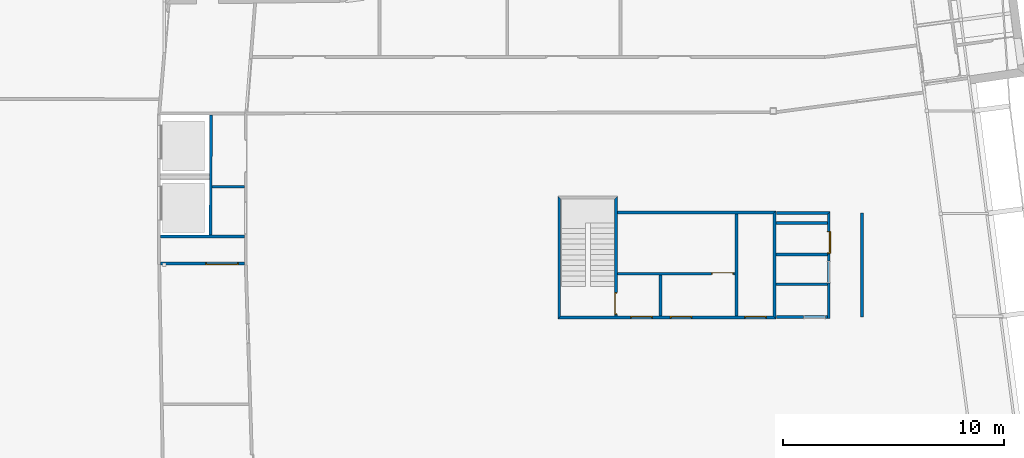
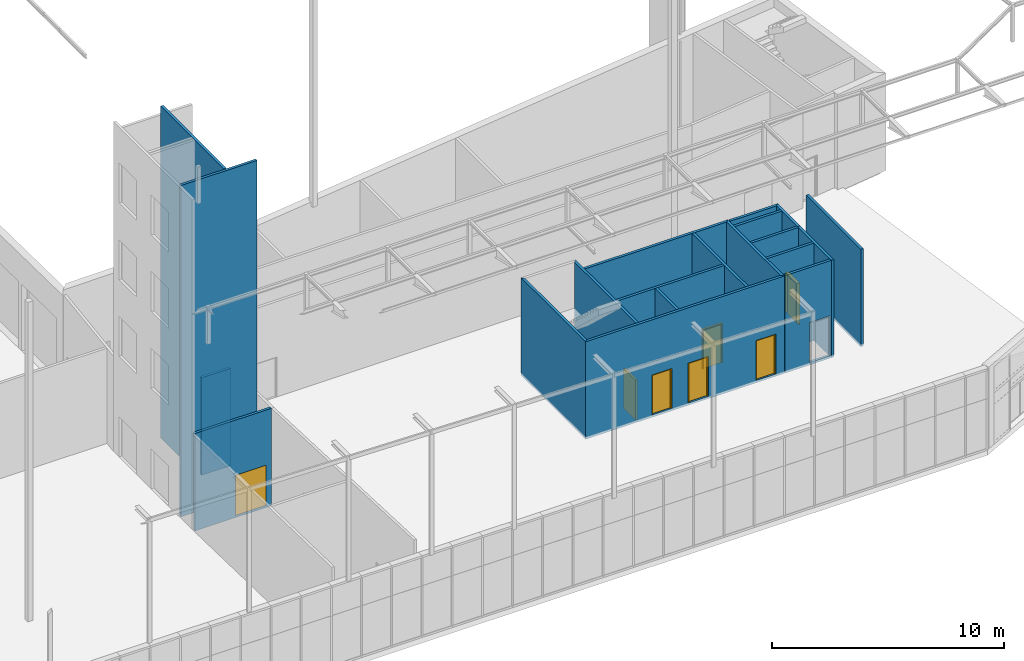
# One storey, part 26 of 40: 20 walls, 7 doors, 9 openings.
"""IFC2X3 building model written with IfcOpenShell, lengths in metres."""

from ifc_helpers import new_model, entity, si_unit, converted_unit, money_unit, direction, frame, origin_with_axes, origin_2d_with_axis, place, context, subcontext, project, spatial, polyline, rectangle, outline, extrude, faceted_brep, source, transform, mapped, material, material_list, layer, layer_set, layer_usage, type_object, element, fill, save


model = new_model("IFC2X3")

# Units and contexts
model_context = context("Model", 3, precision=1e-05, world=origin_with_axes(), true_north=direction((0.0, 1.0)))
body_context = subcontext(model_context, "Body", "Model", "MODEL_VIEW")
ifc_project = project(units=[si_unit("LENGTHUNIT", "METRE"), si_unit("AREAUNIT", "SQUARE_METRE"), si_unit("VOLUMEUNIT", "CUBIC_METRE"), converted_unit("PLANEANGLEUNIT", "DEGREE", entity("IfcPlaneAngleMeasure", 0.0174532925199), si_unit("PLANEANGLEUNIT", "RADIAN"), dimensions=[0, 0, 0, 0, 0, 0, 0]), si_unit("SOLIDANGLEUNIT", "STERADIAN"), money_unit("EUR"), converted_unit("TIMEUNIT", "Year", entity("IfcTimeMeasure", 31556926.0), si_unit("TIMEUNIT", "SECOND"), dimensions=[0, 0, 0, 0, 0, 0, 0]), si_unit("MASSUNIT", "GRAM"), si_unit("THERMODYNAMICTEMPERATUREUNIT", "DEGREE_CELSIUS"), si_unit("LUMINOUSINTENSITYUNIT", "LUMEN")], contexts=[model_context])

# Site, building, storey
site_placement = place(None, origin_with_axes())
site = spatial("IfcSite", under=ifc_project, at=site_placement, Name="Undefined", CompositionType="ELEMENT")
building_placement = place(site_placement, origin_with_axes())
building = spatial("IfcBuilding", under=site, at=building_placement, Name="Undefined", CompositionType="ELEMENT")
storey_placement = place(building_placement, origin_with_axes())
storey = spatial("IfcBuildingStorey", under=building, at=storey_placement, Name="Rez de chauss\x8ee", CompositionType="ELEMENT", Elevation=0.0)

# Wall, opening
ifc_material_1 = material(Name="Finition int - Enduit pl\x89tre")
ifc_layer_1 = layer(ifc_material_1, 0.015, ventilated="UNKNOWN")
ifc_material_2 = material(Name="Struct. - Parpaing b\x8eton")
ifc_layer_2 = layer(ifc_material_2, 0.1, ventilated="UNKNOWN")
ifc_layer_3 = layer(ifc_material_1, 0.015, ventilated="UNKNOWN")
ifc_layer_set = layer_set([ifc_layer_1, ifc_layer_2, ifc_layer_3], Name="0.0-Cloison: parpaing + pl\x89tre 2 faces copie")
ifc_layer_usage_1 = layer_usage(ifc_layer_set, "AXIS2", "POSITIVE", -0.05)
wall_type = type_object("IfcWallType", Name="0.0-Cloison: parpaing + pl\x89tre 2 faces copie 130", PredefinedType="NOTDEFINED")
wall_1_placement = place(storey_placement, frame((59.375, 9.195, 0.0), z_axis=(0.0, 0.0, 1.0), x_axis=(0.0, 1.0, 0.0)))
wall_1 = element("IfcWallStandardCase", 1, at=wall_1_placement, inside=storey, type_object=wall_type, material=ifc_layer_usage_1, Name="VOILE_10CM", ObjectType="5850*100", context=body_context, shape_type="SweptSolid", body=[
    extrude(outline(polyline([(0.0, -0.05), (2.91999999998, -0.05), (2.91999999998, 0.08), (0.0, 0.08), (0.0, -0.05)])), origin_with_axes(), (0.0, 0.0, 1.0), 5.11885554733),
])
opening_1_placement = place(wall_1_placement, frame((2.10446837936, 0.0, 0.06), z_axis=(0.0, 0.0, 1.0), x_axis=(1.0, 0.0, 0.0)))
element("IfcOpeningElement", 2, at=opening_1_placement, cuts=wall_1, Name="DOOR_1000", context=body_context, shape_type="SweptSolid", body=[
    extrude(rectangle(XDim=1.0, YDim=2.1, at=origin_2d_with_axis()), frame((0.0, 0.13, 1.05), z_axis=(0.0, -1.0, 0.0), x_axis=(-1.0, 0.0, 0.0)), (0.0, 0.0, 1.0), 0.39),
    extrude(rectangle(XDim=1.02, YDim=2.11, at=origin_2d_with_axis()), frame((0.0, 0.21, 1.055), z_axis=(0.0, -1.0, 0.0), x_axis=(-1.0, 0.0, 0.0)), (0.0, 0.0, 1.0), 0.13),
    extrude(rectangle(XDim=1.02, YDim=2.11, at=origin_2d_with_axis()), frame((0.0, -0.18, 1.055), z_axis=(0.0, 1.0, 0.0), x_axis=(-1.0, 0.0, 0.0)), (0.0, 0.0, 1.0), 0.13),
])

# Walls
ifc_layer_usage_2 = layer_usage(ifc_layer_set, "AXIS2", "NEGATIVE", 0.0)
wall_2_placement = place(storey_placement, frame((28.9587660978, 12.9800686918, 0.0), z_axis=(0.0, 0.0, 1.0), x_axis=(1.0, 0.0, 0.0)))
element("IfcWallStandardCase", 3, at=wall_2_placement, inside=storey, type_object=wall_type, material=ifc_layer_usage_2, Name="VOILE_15CM", ObjectType="6700*150", context=body_context, shape_type="SweptSolid", body=[
    extrude(outline(polyline([(0.13, -0.13), (3.92496966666, -0.13), (3.92496966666, 0.0), (0.13, 0.0), (0.13, -0.13)])), origin_with_axes(), (0.0, 0.0, 1.0), 17.4),
])
ifc_layer_usage_3 = layer_usage(ifc_layer_set, "AXIS2", "POSITIVE", -0.05)
wall_3_placement = place(storey_placement, frame((59.375, 10.7644683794, 0.0), z_axis=(0.0, 0.0, 1.0), x_axis=(-1.0, 0.0, 0.0)))
element("IfcWallStandardCase", 4, at=wall_3_placement, inside=storey, type_object=wall_type, material=ifc_layer_usage_3, Name="VOILE_10CM", ObjectType="5850*100", context=body_context, shape_type="SweptSolid", body=[
    extrude(outline(polyline([(0.08, -0.05), (2.41, -0.05), (2.41, 0.08), (0.08, 0.08), (0.08, -0.05)])), origin_with_axes(), (0.0, 0.0, 1.0), 5.11885554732),
])

# Wall, openings, doors
ifc_layer_usage_4 = layer_usage(ifc_layer_set, "AXIS2", "POSITIVE", 0.0)
wall_4_placement = place(storey_placement, frame((56.835, 9.31500002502, 0.0), z_axis=(0.0, 0.0, 1.0), x_axis=(-1.0, 0.0, 0.0)))
wall_4 = element("IfcWallStandardCase", 5, at=wall_4_placement, inside=storey, type_object=wall_type, material=ifc_layer_usage_4, Name="VOILE_15CM", ObjectType="5850*150", context=body_context, shape_type="SweptSolid", body=[
    extrude(outline(polyline([(0.0, 0.0), (9.62, 0.0), (9.75, 0.13), (-0.13, 0.13), (0.0, 0.0)])), origin_with_axes(), (0.0, 0.0, 1.0), 5.12),
])
opening_2_placement = place(wall_4_placement, frame((5.9541795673, 0.0, 0.12), z_axis=(0.0, 0.0, 1.0), x_axis=(1.0, 0.0, 0.0)))
opening_2 = element("IfcOpeningElement", 6, at=opening_2_placement, cuts=wall_4, Name="DOOR_1000", context=body_context, shape_type="SweptSolid", body=[
    extrude(rectangle(XDim=1.0, YDim=2.1, at=origin_2d_with_axis()), frame((0.0, -0.13, 1.05), z_axis=(0.0, 1.0, 0.0), x_axis=(1.0, 0.0, 0.0)), (0.0, 0.0, 1.0), 0.13),
    extrude(rectangle(XDim=1.0, YDim=2.1, at=origin_2d_with_axis()), frame((0.0, 0.13, 1.05), z_axis=(0.0, -1.0, 0.0), x_axis=(1.0, 0.0, 0.0)), (0.0, 0.0, 1.0), 0.13),
])
opening_3_placement = place(wall_4_placement, frame((0.798379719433, 0.0, 0.12), z_axis=(0.0, 0.0, 1.0), x_axis=(1.0, 0.0, 0.0)))
opening_3 = element("IfcOpeningElement", 7, at=opening_3_placement, cuts=wall_4, Name="DOOR_1000", context=body_context, shape_type="SweptSolid", body=[
    extrude(rectangle(XDim=1.0, YDim=2.1, at=origin_2d_with_axis()), frame((0.0, -0.13, 1.05), z_axis=(0.0, 1.0, 0.0), x_axis=(1.0, 0.0, 0.0)), (0.0, 0.0, 1.0), 0.13),
    extrude(rectangle(XDim=1.0, YDim=2.1, at=origin_2d_with_axis()), frame((0.0, 0.13, 1.05), z_axis=(0.0, -1.0, 0.0), x_axis=(1.0, 0.0, 0.0)), (0.0, 0.0, 1.0), 0.13),
])
opening_4_placement = place(wall_4_placement, frame((4.15761318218, 0.0, 0.12), z_axis=(0.0, 0.0, 1.0), x_axis=(1.0, 0.0, 0.0)))
opening_4 = element("IfcOpeningElement", 8, at=opening_4_placement, cuts=wall_4, Name="DOOR_1000", context=body_context, shape_type="SweptSolid", body=[
    extrude(rectangle(XDim=1.0, YDim=2.1, at=origin_2d_with_axis()), frame((0.0, -0.13, 1.05), z_axis=(0.0, 1.0, 0.0), x_axis=(1.0, 0.0, 0.0)), (0.0, 0.0, 1.0), 0.13),
    extrude(rectangle(XDim=1.0, YDim=2.1, at=origin_2d_with_axis()), frame((0.0, 0.13, 1.05), z_axis=(0.0, -1.0, 0.0), x_axis=(1.0, 0.0, 0.0)), (0.0, 0.0, 1.0), 0.13),
])
ifc_material_3 = material(Name="Background Fill-International")
ifc_material_4 = material(Name="Air Space")
ifc_material_list_1 = material_list([ifc_material_3, ifc_material_4])
door_style_1 = type_object("IfcDoorStyle", Name="IFC Porte - Simple battant", ConstructionType="NOTDEFINED", OperationType="SINGLE_SWING_LEFT", ParameterTakesPrecedence=True, Sizeable=False)
shared_shape_1 = source(origin_with_axes(), body_context, "Body", "Brep", [
    faceted_brep([(0.5, 0.0, 0.0), (0.5, -0.1, 0.0), (0.45, -0.1, 0.0), (0.45, 0.0, 0.0), (0.5, 0.0, 2.1), (0.5, -0.1, 2.1), (-0.5, -0.1, 2.1), (-0.5, -0.1, 0.0), (-0.45, -0.1, 0.0), (-0.45, -0.1, 2.05), (0.45, -0.1, 2.05), (0.45, 0.0, 2.05), (-0.45, 0.0, 2.05), (-0.45, 0.0, 0.0), (-0.5, 0.0, 0.0), (-0.5, 0.0, 2.1)], [[[0, 1, 2, 3]], [[4, 5, 1, 0]], [[1, 5, 6, 7, 8, 9, 10, 2]], [[3, 2, 10, 11]], [[0, 3, 11, 12, 13, 14, 15, 4]], [[15, 6, 5, 4]], [[14, 7, 6, 15]], [[13, 8, 7, 14]], [[12, 9, 8, 13]], [[11, 10, 9, 12]]]),
    faceted_brep([(-0.45, 0.0, 0.0), (-0.45, -0.04, 0.0), (-0.45, -0.04, 2.05), (-0.45, 0.0, 2.05), (0.45, 0.0, 0.0), (0.45, -0.04, 0.0), (0.45, -0.04, 2.05), (0.45, 0.0, 2.05)], [[[0, 1, 2, 3]], [[4, 5, 1, 0]], [[1, 5, 6, 2]], [[3, 2, 6, 7]], [[0, 3, 7, 4]], [[7, 6, 5, 4]]]),
])
door_1_placement = place(opening_2_placement, frame((0.5, 0.0, 0.0), z_axis=(0.0, 0.0, 1.0), x_axis=(-1.0, 0.0, 0.0)))
door_1 = element("IfcDoor", 9, at=door_1_placement, inside=storey, type_object=door_style_1, material=ifc_material_list_1, Name="DOOR_1000", ObjectType="DOOR", OverallHeight=2.1, OverallWidth=1.0, context=body_context, shape_type="MappedRepresentation", body=[
    mapped(shared_shape_1, transform((0.5, 0.0, 0.0))),
])
fill(opening_2, door_1)
door_2_placement = place(opening_3_placement, frame((0.5, 0.0, 0.0), z_axis=(0.0, 0.0, 1.0), x_axis=(-1.0, 0.0, 0.0)))
door_2 = element("IfcDoor", 10, at=door_2_placement, inside=storey, type_object=door_style_1, material=ifc_material_list_1, Name="DOOR_1000", ObjectType="DOOR", OverallHeight=2.1, OverallWidth=1.0, context=body_context, shape_type="MappedRepresentation", body=[
    mapped(shared_shape_1, transform((0.5, 0.0, 0.0))),
])
fill(opening_3, door_2)
door_3_placement = place(opening_4_placement, frame((0.5, 0.0, 0.0), z_axis=(0.0, 0.0, 1.0), x_axis=(-1.0, 0.0, 0.0)))
door_3 = element("IfcDoor", 11, at=door_3_placement, inside=storey, type_object=door_style_1, material=ifc_material_list_1, Name="DOOR_1000", ObjectType="DOOR", OverallHeight=2.1, OverallWidth=1.0, context=body_context, shape_type="MappedRepresentation", body=[
    mapped(shared_shape_1, transform((0.5, 0.0, 0.0))),
])
fill(opening_4, door_3)

# Wall, opening, door
ifc_layer_usage_5 = layer_usage(ifc_layer_set, "AXIS2", "NEGATIVE", 0.0)
wall_5_placement = place(storey_placement, frame((33.0137357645, 11.6299225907, 0.0), z_axis=(0.0, 0.0, 1.0), x_axis=(-1.0, 0.0, 0.0)))
wall_5 = element("IfcWallStandardCase", 12, at=wall_5_placement, inside=storey, type_object=wall_type, material=ifc_layer_usage_5, Name="VOILE_15CM", ObjectType="6700*150", context=body_context, shape_type="SweptSolid", body=[
    extrude(outline(polyline([(0.13, -0.13), (3.92703942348, -0.13), (3.92468109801, 0.0), (0.13, 0.0), (0.13, -0.13)])), origin_with_axes(), (0.0, 0.0, 1.0), 5.12),
])
opening_5_placement = place(wall_5_placement, frame((1.15097330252, 0.0, 0.12), z_axis=(0.0, 0.0, 1.0), x_axis=(1.0, 0.0, 0.0)))
opening_5 = element("IfcOpeningElement", 13, at=opening_5_placement, cuts=wall_5, Name="DOOR", context=body_context, shape_type="SweptSolid", body=[
    extrude(rectangle(XDim=1.5, YDim=2.1, at=origin_2d_with_axis()), frame((0.0, 0.13, 1.05), z_axis=(0.0, -1.0, 0.0), x_axis=(1.0, 0.0, 0.0)), (0.0, 0.0, 1.0), 0.13),
    extrude(rectangle(XDim=1.5, YDim=2.1, at=origin_2d_with_axis()), frame((0.0, -0.13, 1.05), z_axis=(0.0, 1.0, 0.0), x_axis=(1.0, 0.0, 0.0)), (0.0, 0.0, 1.0), 0.13),
])
door_style_2 = type_object("IfcDoorStyle", Name="IFC Porte double - Simple battant", ConstructionType="ALUMINIUM", OperationType="DOUBLE_DOOR_SINGLE_SWING", ParameterTakesPrecedence=True, Sizeable=False)
shared_shape_2 = source(origin_with_axes(), body_context, "Body", "Brep", [
    faceted_brep([(-0.75, 0.0, 0.0), (-0.7, 0.0, 0.0), (-0.7, -0.1, 0.0), (-0.75, -0.1, 0.0), (-0.75, 0.0, 2.1), (0.75, 0.0, 2.1), (0.75, 0.0, 0.0), (0.7, 0.0, 0.0), (0.7, 0.0, 2.05), (-0.7, 0.0, 2.05), (-0.7, -0.1, 2.05), (0.7, -0.1, 2.05), (0.7, -0.1, 0.0), (0.75, -0.1, 0.0), (0.75, -0.1, 2.1), (-0.75, -0.1, 2.1)], [[[0, 1, 2, 3]], [[0, 4, 5, 6, 7, 8, 9, 1]], [[1, 9, 10, 2]], [[3, 2, 10, 11, 12, 13, 14, 15]], [[4, 0, 3, 15]], [[5, 4, 15, 14]], [[6, 5, 14, 13]], [[7, 6, 13, 12]], [[8, 7, 12, 11]], [[9, 8, 11, 10]]]),
    faceted_brep([(0.7, 0.0, 0.0), (0.7, 0.0, 2.05), (0.7, -0.04, 2.05), (0.7, -0.04, 0.0), (0.0, 0.0, 0.0), (0.0, 0.0, 2.05), (0.0, -0.04, 2.05), (0.0, -0.04, 0.0)], [[[0, 1, 2, 3]], [[0, 4, 5, 1]], [[1, 5, 6, 2]], [[3, 2, 6, 7]], [[4, 0, 3, 7]], [[5, 4, 7, 6]]]),
    faceted_brep([(-0.7, 0.0, 0.0), (0.0, 0.0, 0.0), (0.0, -0.04, 0.0), (-0.7, -0.04, 0.0), (-0.7, 0.0, 2.05), (0.0, 0.0, 2.05), (0.0, -0.04, 2.05), (-0.7, -0.04, 2.05)], [[[0, 1, 2, 3]], [[0, 4, 5, 1]], [[1, 5, 6, 2]], [[3, 2, 6, 7]], [[4, 0, 3, 7]], [[5, 4, 7, 6]]]),
])
door_4_placement = place(opening_5_placement, frame((-0.75, 0.0, 0.0), z_axis=(0.0, 0.0, 1.0), x_axis=(1.0, 0.0, 0.0)))
door_4 = element("IfcDoor", 14, at=door_4_placement, inside=storey, type_object=door_style_2, material=ifc_material_list_1, Name="DOOR", ObjectType="DOOR", OverallHeight=2.1, OverallWidth=1.5, context=body_context, shape_type="MappedRepresentation", body=[
    mapped(shared_shape_2, transform((0.75, 0.0, 0.0))),
])
fill(opening_5, door_4)

# Wall
ifc_layer_usage_6 = layer_usage(ifc_layer_set, "AXIS2", "POSITIVE", 0.0)
wall_6_placement = place(storey_placement, frame((51.6756910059, 11.1599999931, 0.0), z_axis=(0.0, 0.0, 1.0), x_axis=(0.0, -1.0, 0.0)))
element("IfcWallStandardCase", 15, at=wall_6_placement, inside=storey, type_object=wall_type, material=ifc_layer_usage_6, Name="VOILE_15CM", ObjectType="5850*150", context=body_context, shape_type="SweptSolid", body=[
    extrude(outline(polyline([(0.0, 0.0), (1.84499996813, 0.0), (1.84499996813, 0.13), (0.0, 0.13), (0.0, 0.0)])), origin_with_axes(), (0.0, 0.0, 1.0), 5.12),
])

# Wall, opening, door
ifc_layer_usage_7 = layer_usage(ifc_layer_set, "AXIS2", "POSITIVE", 0.0)
wall_7_placement = place(storey_placement, frame((49.6599999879, 11.1599999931, 0.0), z_axis=(0.0, 0.0, 1.0), x_axis=(1.0, 0.0, 0.0)))
wall_7 = element("IfcWallStandardCase", 16, at=wall_7_placement, inside=storey, type_object=wall_type, material=ifc_layer_usage_7, Name="VOILE_15CM", ObjectType="5850*150", context=body_context, shape_type="SweptSolid", body=[
    extrude(outline(polyline([(0.13, 0.0), (5.45637656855, 0.0), (5.45637656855, 0.13), (0.13, 0.13), (0.13, 0.0)])), origin_with_axes(), (0.0, 0.0, 1.0), 5.12),
])
opening_6_placement = place(wall_7_placement, frame((4.89427702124, 0.0, 0.0), z_axis=(0.0, 0.0, 1.0), x_axis=(1.0, 0.0, 0.0)))
opening_6 = element("IfcOpeningElement", 17, at=opening_6_placement, cuts=wall_7, Name="DOOR_1000", context=body_context, shape_type="SweptSolid", body=[
    extrude(rectangle(XDim=1.0, YDim=2.1, at=origin_2d_with_axis()), frame((0.0, 0.26, 1.05), z_axis=(0.0, -1.0, 0.0), x_axis=(1.0, 0.0, 0.0)), (0.0, 0.0, 1.0), 0.13),
    extrude(rectangle(XDim=1.0, YDim=2.1, at=origin_2d_with_axis()), frame((0.0, 0.0, 1.05), z_axis=(0.0, 1.0, 0.0), x_axis=(1.0, 0.0, 0.0)), (0.0, 0.0, 1.0), 0.13),
])
door_style_3 = type_object("IfcDoorStyle", Name="IFC Porte - Simple battant", ConstructionType="NOTDEFINED", OperationType="SINGLE_SWING_LEFT", ParameterTakesPrecedence=True, Sizeable=False)
door_5_placement = place(opening_6_placement, frame((-0.5, 0.0, 0.0), z_axis=(0.0, 0.0, 1.0), x_axis=(1.0, 0.0, 0.0)))
door_5 = element("IfcDoor", 18, at=door_5_placement, inside=storey, type_object=door_style_3, material=ifc_material_list_1, Name="DOOR_1000", ObjectType="DOOR", OverallHeight=2.1, OverallWidth=1.0, context=body_context, shape_type="MappedRepresentation", body=[
    mapped(shared_shape_1, transform((0.5, 0.13, 0.0))),
])
fill(opening_6, door_5)

# Wall
ifc_layer_usage_8 = layer_usage(ifc_layer_set, "AXIS2", "POSITIVE", 0.0)
wall_8_placement = place(storey_placement, frame((47.085, 14.61, 0.0), z_axis=(0.0, 0.0, 1.0), x_axis=(0.0, -1.0, 0.0)))
element("IfcWallStandardCase", 19, at=wall_8_placement, inside=storey, type_object=wall_type, material=ifc_layer_usage_8, Name="VOILE_15CM", ObjectType="5850*150", context=body_context, shape_type="SweptSolid", body=[
    extrude(outline(polyline([(-0.13, 0.0), (5.42499997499, 0.0), (5.29499997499, 0.13), (0.0, 0.13), (-0.13, 0.0)])), origin_with_axes(), (0.0, 0.0, 1.0), 5.12),
])

# Wall, opening, door
ifc_layer_usage_9 = layer_usage(ifc_layer_set, "AXIS2", "POSITIVE", 0.0)
wall_9_placement = place(storey_placement, frame((49.6599999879, 14.61, 0.0), z_axis=(0.0, 0.0, 1.0), x_axis=(0.0, -1.0, 0.0)))
wall_9 = element("IfcWallStandardCase", 20, at=wall_9_placement, inside=storey, type_object=wall_type, material=ifc_layer_usage_9, Name="VOILE_15CM", ObjectType="5850*150", context=body_context, shape_type="SweptSolid", body=[
    extrude(outline(polyline([(0.0, 0.0), (5.29499997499, 0.0), (5.29499997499, 0.13), (-0.13, 0.13), (0.0, 0.0)])), origin_with_axes(), (0.0, 0.0, 1.0), 5.12),
])
opening_7_placement = place(wall_9_placement, frame((4.73500000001, 0.0, 0.0), z_axis=(0.0, 0.0, 1.0), x_axis=(1.0, 0.0, 0.0)))
opening_7 = element("IfcOpeningElement", 21, at=opening_7_placement, cuts=wall_9, Name="DOOR_1000", context=body_context, shape_type="SweptSolid", body=[
    extrude(rectangle(XDim=1.0, YDim=2.1, at=origin_2d_with_axis()), frame((0.0, -0.13, 1.05), z_axis=(0.0, 1.0, 0.0), x_axis=(1.0, 0.0, 0.0)), (0.0, 0.0, 1.0), 0.13),
    extrude(rectangle(XDim=1.0, YDim=2.1, at=origin_2d_with_axis()), frame((0.0, 0.13, 1.05), z_axis=(0.0, -1.0, 0.0), x_axis=(1.0, 0.0, 0.0)), (0.0, 0.0, 1.0), 0.13),
])
door_6_placement = place(opening_7_placement, frame((0.5, 0.0, 0.0), z_axis=(0.0, 0.0, 1.0), x_axis=(-1.0, 0.0, 0.0)))
door_6 = element("IfcDoor", 22, at=door_6_placement, inside=storey, type_object=door_style_1, material=ifc_material_list_1, Name="DOOR_1000", ObjectType="DOOR", OverallHeight=2.1, OverallWidth=1.0, context=body_context, shape_type="MappedRepresentation", body=[
    mapped(shared_shape_1, transform((0.5, 0.0, 0.0))),
])
fill(opening_7, door_6)

# Walls
ifc_layer_usage_10 = layer_usage(ifc_layer_set, "AXIS2", "POSITIVE", 0.0)
wall_10_placement = place(storey_placement, frame((49.6599999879, 13.935, 0.0), z_axis=(0.0, 0.0, 1.0), x_axis=(1.0, 0.0, 0.0)))
element("IfcWallStandardCase", 23, at=wall_10_placement, inside=storey, type_object=wall_type, material=ifc_layer_usage_10, Name="VOILE_15CM", ObjectType="5850*150", context=body_context, shape_type="SweptSolid", body=[
    extrude(outline(polyline([(0.13, 0.0), (7.17500001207, 0.0), (7.30500001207, 0.13), (0.13, 0.13), (0.13, 0.0)])), origin_with_axes(), (0.0, 0.0, 1.0), 5.12),
])
ifc_layer_usage_11 = layer_usage(ifc_layer_set, "AXIS2", "NEGATIVE", 0.0)
wall_11_placement = place(storey_placement, frame((33.0137357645, 15.100969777, 0.0), z_axis=(0.0, 0.0, 1.0), x_axis=(-1.0, 0.0, 0.0)))
element("IfcWallStandardCase", 24, at=wall_11_placement, inside=storey, type_object=wall_type, material=ifc_layer_usage_11, Name="VOILE_15CM", ObjectType="6700*150", context=body_context, shape_type="SweptSolid", body=[
    extrude(outline(polyline([(0.13, -0.13), (1.59511333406, -0.13), (1.59511333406, 0.0), (0.13, 0.0), (0.13, -0.13)])), origin_with_axes(), (0.0, 0.0, 1.0), 5.12),
])
ifc_layer_usage_12 = layer_usage(ifc_layer_set, "AXIS2", "POSITIVE", 0.0)
wall_12_placement = place(storey_placement, frame((55.2463765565, 9.31500002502, 0.0), z_axis=(0.0, 0.0, 1.0), x_axis=(0.0, 1.0, 0.0)))
element("IfcWallStandardCase", 25, at=wall_12_placement, inside=storey, type_object=wall_type, material=ifc_layer_usage_12, Name="VOILE_15CM", ObjectType="5850*150", context=body_context, shape_type="SweptSolid", body=[
    extrude(outline(polyline([(0.0, 0.0), (4.61999997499, 0.0), (4.61999997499, 0.13), (0.0, 0.13), (0.0, 0.0)])), origin_with_axes(), (0.0, 0.0, 1.0), 5.12),
])
ifc_layer_usage_13 = layer_usage(ifc_layer_set, "AXIS2", "POSITIVE", 0.0)
wall_13_placement = place(storey_placement, frame((31.4187636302, 12.9800686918, 0.0), z_axis=(0.0, 0.0, 1.0), x_axis=(0.00268373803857, 0.999996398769, 0.0)))
element("IfcWallStandardCase", 26, at=wall_13_placement, inside=storey, type_object=wall_type, material=ifc_layer_usage_13, Name="VOILE_15CM", ObjectType="6700*150", context=body_context, shape_type="SweptSolid", body=[
    extrude(outline(polyline([(0.0, 0.0), (5.44501960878, 0.0), (5.44467072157, 0.13), (-0.000348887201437, 0.13), (0.0, 0.0)])), origin_with_axes(), (0.0, 0.0, 1.0), 17.4249999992),
])

# Wall, opening, door
ifc_layer_usage_14 = layer_usage(ifc_layer_set, "AXIS2", "POSITIVE", -0.05)
wall_14_placement = place(storey_placement, frame((59.375, 12.115, 0.0), z_axis=(0.0, 0.0, 1.0), x_axis=(0.0, 1.0, 0.0)))
wall_14 = element("IfcWallStandardCase", 27, at=wall_14_placement, inside=storey, type_object=wall_type, material=ifc_layer_usage_14, Name="VOILE_10CM", ObjectType="5850*100", context=body_context, shape_type="SweptSolid", body=[
    extrude(outline(polyline([(0.0, -0.05), (1.92500000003, -0.05), (1.79500000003, 0.08), (0.0, 0.08), (0.0, -0.05)])), origin_with_axes(), (0.0, 0.0, 1.0), 5.11885554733),
])
opening_8_placement = place(wall_14_placement, frame((0.535, 0.0, 0.0), z_axis=(0.0, 0.0, 1.0), x_axis=(1.0, 0.0, 0.0)))
opening_8 = element("IfcOpeningElement", 28, at=opening_8_placement, cuts=wall_14, Name="DOOR_1000", context=body_context, shape_type="SweptSolid", body=[
    extrude(rectangle(XDim=1.0, YDim=2.1, at=origin_2d_with_axis()), frame((0.0, 0.13, 1.05), z_axis=(0.0, -1.0, 0.0), x_axis=(-1.0, 0.0, 0.0)), (0.0, 0.0, 1.0), 0.39),
    extrude(rectangle(XDim=1.0, YDim=0.105069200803, at=origin_2d_with_axis()), frame((0.0, -0.18, -0.0525346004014), z_axis=(0.0, 1.0, 0.0), x_axis=(-1.0, 0.0, 0.0)), (0.0, 0.0, 1.0), 0.167364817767),
    extrude(rectangle(XDim=1.02, YDim=2.11, at=origin_2d_with_axis()), frame((0.0, 0.21, 1.055), z_axis=(0.0, -1.0, 0.0), x_axis=(-1.0, 0.0, 0.0)), (0.0, 0.0, 1.0), 0.13),
    extrude(rectangle(XDim=1.02, YDim=2.2150692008, at=origin_2d_with_axis()), frame((0.0, -0.18, 1.0024653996), z_axis=(0.0, 1.0, 0.0), x_axis=(-1.0, 0.0, 0.0)), (0.0, 0.0, 1.0), 0.13),
])
ifc_material_5 = material(Name="Empty Fill")
ifc_material_6 = material(Name="Foreground")
ifc_material_7 = material(Name="Rigid Insulation")
ifc_material_8 = material(Name="Background")
ifc_material_list_2 = material_list([ifc_material_5, ifc_material_4, ifc_material_6, ifc_material_5, ifc_material_3, ifc_material_5, ifc_material_5, ifc_material_7, ifc_material_3, ifc_material_5, ifc_material_5, ifc_material_5, ifc_material_4, ifc_material_8, ifc_material_8, ifc_material_3])
door_style_4 = type_object("IfcDoorStyle", Name="Porte 18", ConstructionType="NOTDEFINED", OperationType="SINGLE_SWING_RIGHT", ParameterTakesPrecedence=False, Sizeable=False)
shared_shape_3 = source(origin_with_axes(), body_context, "Body", "Brep", [
    faceted_brep([(-0.5, -0.02, 0.0), (0.5, -0.02, 0.0), (0.5, 0.0373648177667, -0.0101149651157), (-0.5, 0.0373648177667, -0.0101149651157), (-0.5, -0.0373648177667, -0.0984807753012), (0.5, -0.0373648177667, -0.0984807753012), (0.5, 0.02, -0.108595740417), (-0.5, 0.02, -0.108595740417)], [[[0, 1, 2, 3]], [[4, 5, 1, 0]], [[1, 5, 6, 2]], [[3, 2, 6, 7]], [[0, 3, 7, 4]], [[7, 6, 5, 4]]]),
    faceted_brep([(-0.51, -0.149, 0.0), (-0.51, -0.13, 0.0), (-0.46, -0.13, 0.0), (-0.46, -0.149, 0.0), (-0.51, -0.149, 2.11), (-0.51, -0.13, 2.11), (-0.46, -0.13, 2.06), (-0.46, -0.149, 2.06)], [[[0, 1, 2, 3]], [[4, 5, 1, 0]], [[1, 5, 6, 2]], [[3, 2, 6, 7]], [[0, 3, 7, 4]], [[7, 6, 5, 4]]]),
    faceted_brep([(0.51, -0.149, 2.11), (0.51, -0.13, 2.11), (0.46, -0.13, 2.06), (0.46, -0.149, 2.06), (0.51, -0.149, 0.0), (0.51, -0.13, 0.0), (0.46, -0.13, 0.0), (0.46, -0.149, 0.0)], [[[0, 1, 2, 3]], [[4, 5, 1, 0]], [[1, 5, 6, 2]], [[3, 2, 6, 7]], [[0, 3, 7, 4]], [[7, 6, 5, 4]]]),
    faceted_brep([(-0.51, -0.149, 2.11), (-0.51, -0.13, 2.11), (-0.46, -0.13, 2.06), (-0.46, -0.149, 2.06), (0.51, -0.149, 2.11), (0.51, -0.13, 2.11), (0.46, -0.13, 2.06), (0.46, -0.149, 2.06)], [[[0, 1, 2, 3]], [[4, 5, 1, 0]], [[1, 5, 6, 2]], [[3, 2, 6, 7]], [[0, 3, 7, 4]], [[7, 6, 5, 4]]]),
    faceted_brep([(-0.5, 0.0, -0.00352653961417), (-0.46, 0.0, -0.00352653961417), (-0.46, 0.0, 2.06), (-0.51, 0.0, 2.11), (-0.51, 0.0, -0.00352653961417), (-0.46, 0.019, -0.00687675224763), (-0.5, 0.019, -0.00687675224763), (-0.46, 0.019, 2.06), (-0.51, 0.019, 2.11), (-0.51, 0.019, -0.00687675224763)], [[[0, 1, 2, 3, 4]], [[5, 1, 0, 6]], [[1, 5, 7, 2]], [[2, 7, 8, 3]], [[3, 8, 9, 4]], [[0, 4, 9, 6]], [[6, 9, 8, 7, 5]]]),
    faceted_brep([(0.5, 0.0, -0.00352653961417), (0.51, 0.0, -0.00352653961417), (0.51, 0.0, 2.11), (0.46, 0.0, 2.06), (0.46, 0.0, -0.00352653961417), (0.5, 0.019, -0.00687675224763), (0.51, 0.019, -0.00687675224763), (0.51, 0.019, 2.11), (0.46, 0.019, 2.06), (0.46, 0.019, -0.00687675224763)], [[[0, 1, 2, 3, 4]], [[0, 5, 6, 1]], [[6, 7, 2, 1]], [[2, 7, 8, 3]], [[9, 4, 3, 8]], [[0, 4, 9, 5]], [[5, 9, 8, 7, 6]]]),
    faceted_brep([(-0.51, 0.019, 2.11), (-0.46, 0.019, 2.06), (-0.46, 0.0, 2.06), (-0.51, 0.0, 2.11), (0.51, 0.019, 2.11), (0.46, 0.019, 2.06), (0.46, 0.0, 2.06), (0.51, 0.0, 2.11)], [[[0, 1, 2, 3]], [[0, 4, 5, 1]], [[1, 5, 6, 2]], [[3, 2, 6, 7]], [[4, 0, 3, 7]], [[5, 4, 7, 6]]]),
    faceted_brep([(-0.46, -0.04, 0.0), (-0.46, -0.04, 2.06), (-0.46, -0.13, 2.06), (-0.46, -0.13, 0.0), (-0.472, -0.04, 2.06), (-0.472, -0.04, 0.0), (-0.472, 0.0, 2.06), (-0.5, 0.0, 2.06), (-0.5, -0.13, 2.06), (-0.5, -0.13, 0.0), (-0.5, 0.0, 0.0), (-0.472, 0.0, 0.0)], [[[0, 1, 2, 3]], [[4, 1, 0, 5]], [[4, 6, 7, 8, 2, 1]], [[8, 9, 3, 2]], [[5, 0, 3, 9, 10, 11]], [[6, 4, 5, 11]], [[6, 11, 10, 7]], [[8, 7, 10, 9]]]),
    faceted_brep([(0.472, -0.04, 2.06), (0.46, -0.04, 2.06), (0.46, -0.13, 2.06), (0.5, -0.13, 2.06), (0.5, 0.0, 2.06), (0.472, 0.0, 2.06), (0.472, -0.04, 0.0), (0.46, -0.04, 0.0), (0.46, -0.13, 0.0), (0.5, -0.13, 0.0), (0.5, 0.0, 0.0), (0.472, 0.0, 0.0)], [[[0, 1, 2, 3, 4, 5]], [[1, 0, 6, 7]], [[1, 7, 8, 2]], [[8, 9, 3, 2]], [[9, 10, 4, 3]], [[11, 5, 4, 10]], [[0, 5, 11, 6]], [[6, 11, 10, 9, 8, 7]]]),
    faceted_brep([(-0.472, 0.0, 2.072), (-0.472, 0.0, 2.06), (-0.5, 0.0, 2.06), (-0.5, 0.0, 2.1), (0.5, 0.0, 2.1), (0.5, 0.0, 2.06), (0.472, 0.0, 2.06), (0.472, 0.0, 2.072), (-0.472, -0.04, 2.072), (-0.472, -0.04, 2.06), (-0.46, -0.04, 2.06), (-0.46, -0.13, 2.06), (-0.5, -0.13, 2.06), (-0.5, -0.13, 2.1), (0.5, -0.13, 2.1), (0.5, -0.13, 2.06), (0.472, -0.04, 2.06), (0.46, -0.13, 2.06), (0.46, -0.04, 2.06), (0.472, -0.04, 2.072)], [[[0, 1, 2, 3, 4, 5, 6, 7]], [[1, 0, 8, 9]], [[9, 10, 11, 12, 2, 1]], [[13, 3, 2, 12]], [[14, 4, 3, 13]], [[15, 5, 4, 14]], [[16, 6, 5, 15, 17, 18]], [[7, 6, 16, 19]], [[0, 7, 19, 8]], [[16, 18, 10, 9, 8, 19]], [[10, 18, 17, 11]], [[14, 13, 12, 11, 17, 15]]]),
    faceted_brep([(0.472, 0.0, 0.0), (0.472, -0.04, 0.0), (-0.472, -0.04, 0.0), (-0.472, 0.0, 0.0), (0.472, 0.0, 2.072), (0.472, -0.04, 2.072), (-0.472, -0.04, 2.072), (-0.472, 0.0, 2.072)], [[[0, 1, 2, 3]], [[4, 5, 1, 0]], [[1, 5, 6, 2]], [[3, 2, 6, 7]], [[0, 3, 7, 4]], [[7, 6, 5, 4]]]),
])
door_7_placement = place(opening_8_placement, frame((0.5, 0.0, 0.0), z_axis=(0.0, 0.0, 1.0), x_axis=(-1.0, 0.0, 0.0)))
door_7 = element("IfcDoor", 29, at=door_7_placement, inside=storey, type_object=door_style_4, material=ifc_material_list_2, Name="DOOR_1000", ObjectType="DOOR", OverallHeight=2.1, OverallWidth=1.0, context=body_context, shape_type="MappedRepresentation", body=[
    mapped(shared_shape_3, transform((0.5, 0.05, 0.0))),
])
fill(opening_8, door_7)

# Wall, opening
ifc_layer_usage_15 = layer_usage(ifc_layer_set, "AXIS2", "NEGATIVE", 0.05)
wall_15_placement = place(storey_placement, frame((57.0, 9.275, 0.0), z_axis=(0.0, 0.0, 1.0), x_axis=(1.0, 0.0, 0.0)))
wall_15 = element("IfcWallStandardCase", 30, at=wall_15_placement, inside=storey, type_object=wall_type, material=ifc_layer_usage_15, Name="VOILE_10CM", ObjectType="5850*100", context=body_context, shape_type="SweptSolid", body=[
    extrude(outline(polyline([(0.0, -0.08), (2.295, -0.08), (2.295, 0.05), (0.0, 0.05), (0.0, -0.08)])), origin_with_axes(), (0.0, 0.0, 1.0), 5.11885554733),
])
opening_9_placement = place(wall_15_placement, frame((1.71978199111, 0.0, 0.12), z_axis=(0.0, 0.0, 1.0), x_axis=(1.0, 0.0, 0.0)))
element("IfcOpeningElement", 31, at=opening_9_placement, cuts=wall_15, Name="DOOR_1000", context=body_context, shape_type="SweptSolid", body=[
    extrude(rectangle(XDim=1.0, YDim=2.1, at=origin_2d_with_axis()), frame((0.0, 0.13, 1.05), z_axis=(0.0, 1.0, 0.0), x_axis=(1.0, 0.0, 0.0)), (0.0, 0.0, -1.0), 0.39),
    extrude(rectangle(XDim=1.02, YDim=2.11, at=origin_2d_with_axis()), frame((0.0, 0.18, 1.055), z_axis=(0.0, 1.0, 0.0), x_axis=(1.0, 0.0, 0.0)), (0.0, 0.0, -1.0), 0.13),
    extrude(rectangle(XDim=1.02, YDim=2.11, at=origin_2d_with_axis()), frame((0.0, -0.21, 1.055), z_axis=(0.0, -1.0, 0.0), x_axis=(1.0, 0.0, 0.0)), (0.0, 0.0, -1.0), 0.13),
])

# Walls
ifc_layer_usage_16 = layer_usage(ifc_layer_set, "AXIS2", "POSITIVE", -0.05)
wall_16_placement = place(storey_placement, frame((59.375, 12.115, 0.0), z_axis=(0.0, 0.0, 1.0), x_axis=(-1.0, 0.0, 0.0)))
element("IfcWallStandardCase", 32, at=wall_16_placement, inside=storey, type_object=wall_type, material=ifc_layer_usage_16, Name="VOILE_10CM", ObjectType="5850*100", context=body_context, shape_type="SweptSolid", body=[
    extrude(outline(polyline([(0.08, -0.05), (2.41, -0.05), (2.41, 0.08), (0.08, 0.08), (0.08, -0.05)])), origin_with_axes(), (0.0, 0.0, 1.0), 5.11885554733),
])
ifc_layer_usage_17 = layer_usage(ifc_layer_set, "AXIS2", "POSITIVE", -0.05)
wall_17_placement = place(storey_placement, frame((59.375, 13.99, 0.0), z_axis=(0.0, 0.0, 1.0), x_axis=(-1.0, 0.0, 0.0)))
element("IfcWallStandardCase", 33, at=wall_17_placement, inside=storey, type_object=wall_type, material=ifc_layer_usage_17, Name="VOILE_10CM", ObjectType="5850*100", context=body_context, shape_type="SweptSolid", body=[
    extrude(outline(polyline([(-0.05, -0.05), (2.375, -0.05), (2.375, 0.08), (0.08, 0.08), (-0.05, -0.05)])), origin_with_axes(), (0.0, 0.0, 1.0), 5.11885554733),
])
ifc_layer_usage_18 = layer_usage(ifc_layer_set, "AXIS2", "NEGATIVE", 0.0)
wall_18_placement = place(storey_placement, frame((56.835, 9.31500002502, 0.0), z_axis=(0.0, 0.0, 1.0), x_axis=(0.0, 1.0, 0.0)))
element("IfcWallStandardCase", 34, at=wall_18_placement, inside=storey, type_object=wall_type, material=ifc_layer_usage_18, Name="VOILE_15CM", ObjectType="5850*150", context=body_context, shape_type="SweptSolid", body=[
    extrude(outline(polyline([(-0.13, -0.13), (4.74999997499, -0.13), (4.61999997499, 0.0), (0.0, 0.0), (-0.13, -0.13)])), origin_with_axes(), (0.0, 0.0, 1.0), 5.12),
])
ifc_layer_usage_19 = layer_usage(ifc_layer_set, "AXIS2", "POSITIVE", -0.05)
wall_19_placement = place(storey_placement, frame((60.8842827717, 9.275, 0.0), z_axis=(0.0, 0.0, 1.0), x_axis=(0.0, 1.0, 0.0)))
element("IfcWallStandardCase", 35, at=wall_19_placement, inside=storey, type_object=wall_type, material=ifc_layer_usage_19, Name="VOILE_10CM", ObjectType="5850*100", context=body_context, shape_type="SweptSolid", body=[
    extrude(outline(polyline([(0.0, -0.05), (4.70000000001, -0.05), (4.70000000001, 0.08), (0.0, 0.08), (0.0, -0.05)])), origin_with_axes(), (0.0, 0.0, 1.0), 5.11885554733),
])
ifc_layer_usage_20 = layer_usage(ifc_layer_set, "AXIS2", "NEGATIVE", 0.05)
wall_20_placement = place(storey_placement, frame((59.375, 13.51, 0.0), z_axis=(0.0, 0.0, 1.0), x_axis=(-1.0, 0.0, 0.0)))
element("IfcWallStandardCase", 36, at=wall_20_placement, inside=storey, type_object=wall_type, material=ifc_layer_usage_20, Name="VOILE_10CM", ObjectType="5850*100", context=body_context, shape_type="SweptSolid", body=[
    extrude(outline(polyline([(0.08, -0.08), (2.41, -0.08), (2.41, 0.05), (0.08, 0.05), (0.08, -0.08)])), origin_with_axes(), (0.0, 0.0, 1.0), 5.11885554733),
])

save(model, "model.ifc")
